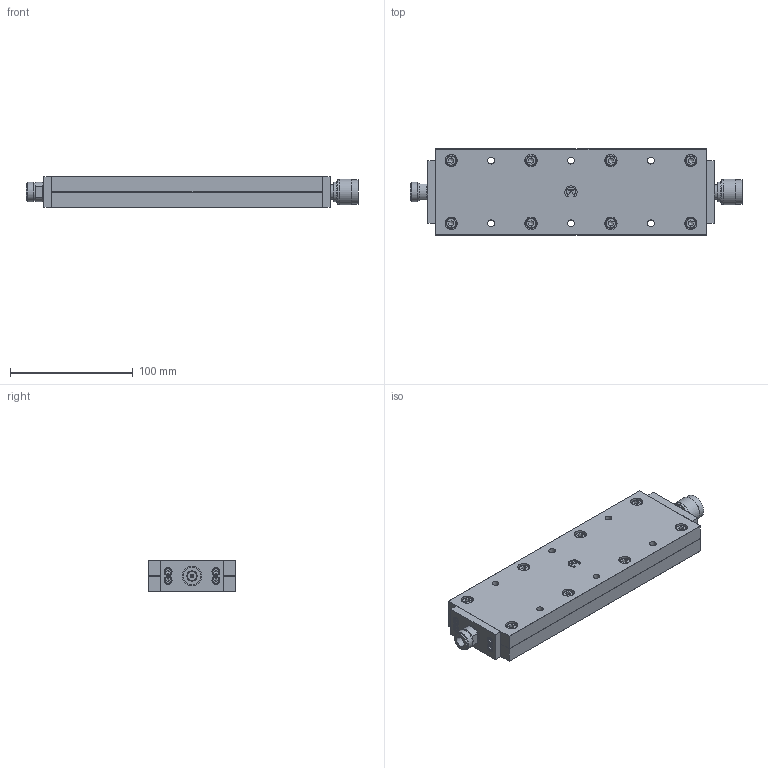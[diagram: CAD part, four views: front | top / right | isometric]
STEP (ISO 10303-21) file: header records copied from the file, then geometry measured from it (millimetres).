
FILE_DESCRIPTION(('STEP AP203'), '1');
FILE_NAME('ÏÐ1-25-500-3-IIIMF', '', ('UNSPECIFIED'), ('UNSPECIFIED'), 'C3D Converter', 'C3D Toolkit', '');
FILE_SCHEMA(('CONFIG_CONTROL_DESIGN'));
Length unit declared in the file: millimetre
Products named in the file (10): -01; #678
Assembly tree (22 placements, depth 2):
  (unnamed)
    (unnamed)
    (unnamed)
    (unnamed)
    (unnamed)  x4
    (unnamed)  x8
    -01
    #678  x4
    -01
    (unnamed)
Bounding box: 270.15 x 70 x 25 mm (x, y, z)
Volume: 401521.8 mm3; surface area: 101203.4 mm2
Topology: 22 solids, 22 shells, 465 faces, 1011 edges, 648 vertices
Faces by surface type: plane 262, cylinder 129, cone 42, torus 32
Full cylindrical faces by diameter (mm): 1.65 x1, 1.66 x1, 2.459 x4, 2.5 x4, 3 x16, 3.04 x2, 4.2 x8, 5 x8, 5.5 x28, 6.5 x8, 7 x2, 8.04 x1, 8.06 x1, 8.5 x8, 9 x1, 10 x8, 11.6 x2, 12.7 x1, 14 x2, 14.94 x1, 15.75 x1, 15.87 x1, 16 x4, 16.5 x1, 17.46 x1, 17.8 x1, 19.8 x2, 20.85 x1
Entity records: 8614 total; most frequent: CARTESIAN_POINT 1790, DIRECTION 1240, ORIENTED_EDGE 910, AXIS2_PLACEMENT_3D 513, EDGE_LOOP 506, EDGE_CURVE 455, VERTEX_POINT 363, FACE_BOUND 292
